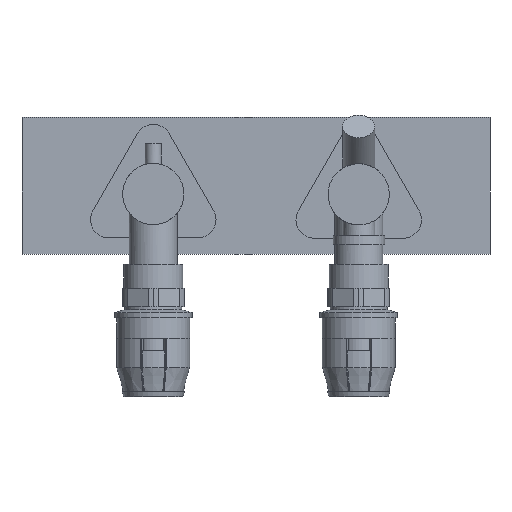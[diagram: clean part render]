
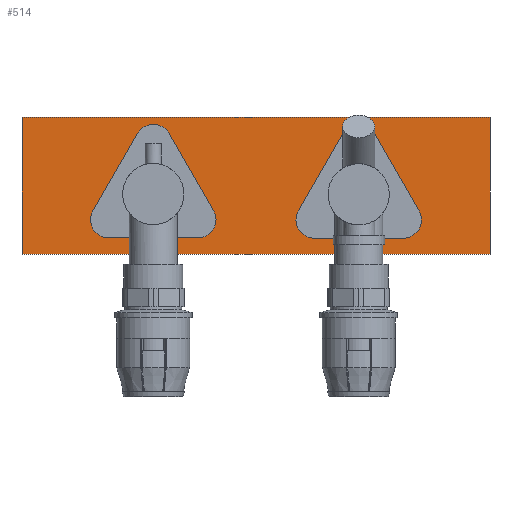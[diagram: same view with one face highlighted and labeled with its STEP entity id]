
A CAD part, front view. The second image highlights one B-rep face of the part: STEP entity #514.
In plain terms, the highlighted planar face has unit normal (0, -1, 0).
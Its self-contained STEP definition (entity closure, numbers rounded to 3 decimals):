
#514=ADVANCED_FACE('',(#880),#881,.T.);
#880=FACE_OUTER_BOUND('',#1664,.T.);
#881=PLANE('',#1665);
#1664=EDGE_LOOP('',(#2453,#2454,#2455,#2456));
#1665=AXIS2_PLACEMENT_3D('',#2457,#2458,#2459);
#2453=ORIENTED_EDGE('',*,*,#4612,.T.);
#2454=ORIENTED_EDGE('',*,*,#4613,.T.);
#2455=ORIENTED_EDGE('',*,*,#4610,.F.);
#2456=ORIENTED_EDGE('',*,*,#4614,.T.);
#2457=CARTESIAN_POINT('',(102.5,0.0,30.0));
#2458=DIRECTION('',(0.0,-1.0,0.0));
#2459=DIRECTION('',(0.0,0.0,-1.0));
#4610=EDGE_CURVE('',#5231,#5233,#5234,.T.);
#4612=EDGE_CURVE('',#5236,#5237,#5238,.T.);
#4613=EDGE_CURVE('',#5237,#5233,#5239,.T.);
#4614=EDGE_CURVE('',#5231,#5236,#5240,.T.);
#5231=VERTEX_POINT('',#6232);
#5233=VERTEX_POINT('',#6235);
#5234=LINE('',#6236,#6237);
#5236=VERTEX_POINT('',#6240);
#5237=VERTEX_POINT('',#6241);
#5238=LINE('',#6242,#6243);
#5239=LINE('',#6244,#6245);
#5240=LINE('',#6246,#6247);
#6232=CARTESIAN_POINT('',(102.5,0.0,-30.0));
#6235=CARTESIAN_POINT('',(-102.5,0.0,-30.0));
#6236=CARTESIAN_POINT('',(102.5,0.0,-30.0));
#6237=VECTOR('',#7999,1.0);
#6240=CARTESIAN_POINT('',(102.5,0.0,30.0));
#6241=CARTESIAN_POINT('',(-102.5,0.0,30.0));
#6242=CARTESIAN_POINT('',(102.5,0.0,30.0));
#6243=VECTOR('',#8001,1.0);
#6244=CARTESIAN_POINT('',(-102.5,0.0,30.0));
#6245=VECTOR('',#8002,1.0);
#6246=CARTESIAN_POINT('',(102.5,0.0,-30.0));
#6247=VECTOR('',#8003,1.0);
#7999=DIRECTION('',(-1.0,0.0,0.0));
#8001=DIRECTION('',(-1.0,0.0,0.0));
#8002=DIRECTION('',(0.0,0.0,-1.0));
#8003=DIRECTION('',(0.0,0.0,1.0));
